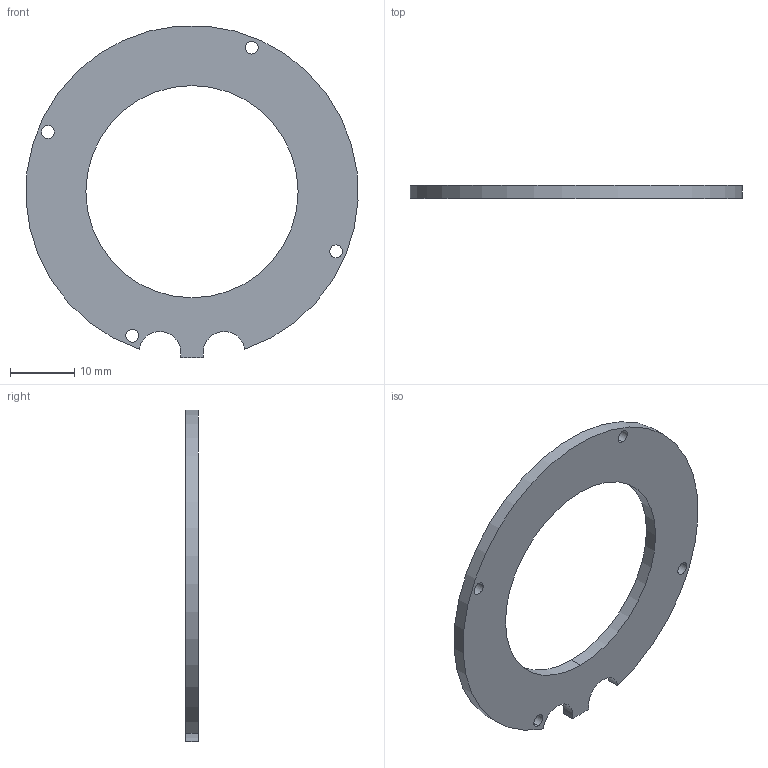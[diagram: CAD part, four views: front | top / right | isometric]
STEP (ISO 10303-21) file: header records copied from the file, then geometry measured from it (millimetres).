
FILE_DESCRIPTION (( 'STEP AP214' ), '1' );
FILE_NAME ('LSQ-XX-051-1-DIFFUSER-F.STEP', '2019-05-06T03:20:06', ( '' ), ( '' ), 'SwSTEP 2.0', 'SolidWorks 2018', '' );
FILE_SCHEMA (( 'AUTOMOTIVE_DESIGN' ));
Length unit declared in the file: millimetre
Products named in the file (1): LSQ-XX-051-1-DIFFUSER-F
Bounding box: 51.63 x 2 x 51.61 mm (x, y, z)
Volume: 2389 mm3; surface area: 2987.5 mm2
Topology: 1 solids, 1 shells, 17 faces, 45 edges, 30 vertices
Faces by surface type: cylinder 15, plane 2
Entity records: 603 total; most frequent: DIRECTION 111, CARTESIAN_POINT 93, ORIENTED_EDGE 90, AXIS2_PLACEMENT_3D 48, EDGE_CURVE 45, CIRCLE 30, VERTEX_POINT 30, EDGE_LOOP 27
